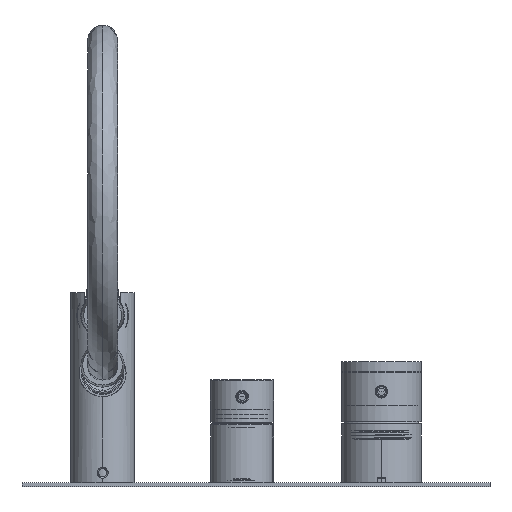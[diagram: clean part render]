
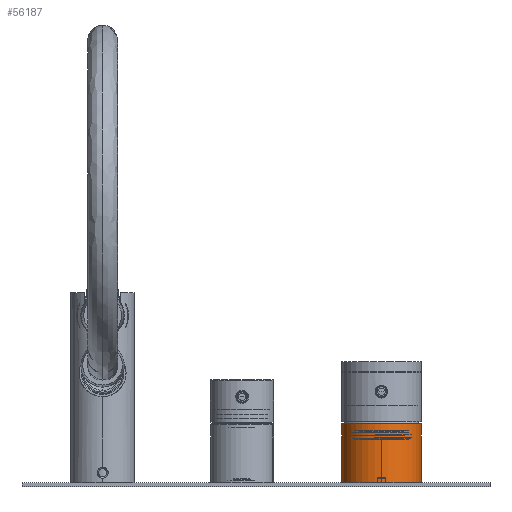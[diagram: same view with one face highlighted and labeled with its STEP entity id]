
A CAD part, top view. The second image highlights one B-rep face of the part: STEP entity #56187.
In plain terms, the highlighted cylindrical face has radius 20 mm (diameter 40 mm), a partial arc.
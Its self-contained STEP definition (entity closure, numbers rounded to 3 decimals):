
#52060=CARTESIAN_POINT('',(0.,13.9,0.));
#52061=DIRECTION('',(0.,1.,0.));
#52062=DIRECTION('',(-1.,0.,0.));
#52063=AXIS2_PLACEMENT_3D('',#52060,#52061,#52062);
#52065=DIRECTION('',(0.,1.,0.));
#52066=VECTOR('',#52065,31.6);
#52067=CARTESIAN_POINT('',(-20.,13.9,0.));
#52068=LINE('',#52067,#52066);
#52069=DIRECTION('',(0.,1.,0.));
#52070=VECTOR('',#52069,31.6);
#52071=CARTESIAN_POINT('',(20.,13.9,0.));
#52072=LINE('',#52071,#52070);
#52073=CARTESIAN_POINT('',(0.,45.5,0.));
#52074=DIRECTION('',(0.,-1.,0.));
#52075=DIRECTION('',(1.,0.,0.));
#52076=AXIS2_PLACEMENT_3D('',#52073,#52074,#52075);
#53010=CARTESIAN_POINT('',(20.,45.5,0.));
#53011=CARTESIAN_POINT('',(-20.,45.5,0.));
#53012=VERTEX_POINT('',#53010);
#53013=VERTEX_POINT('',#53011);
#53014=CARTESIAN_POINT('',(20.,13.9,0.));
#53015=CARTESIAN_POINT('',(-20.,13.9,0.));
#53016=VERTEX_POINT('',#53014);
#53017=VERTEX_POINT('',#53015);
#56175=CARTESIAN_POINT('',(0.,1.925,0.));
#56176=DIRECTION('',(0.,1.,0.));
#56177=DIRECTION('',(1.,0.,0.));
#56178=AXIS2_PLACEMENT_3D('',#56175,#56176,#56177);
#56179=CYLINDRICAL_SURFACE('',#56178,20.);
#56180=ORIENTED_EDGE('',*,*,#56151,.F.);
#56181=ORIENTED_EDGE('',*,*,#56170,.T.);
#56183=ORIENTED_EDGE('',*,*,#56182,.F.);
#56184=ORIENTED_EDGE('',*,*,#56166,.F.);
#56185=EDGE_LOOP('',(#56180,#56181,#56183,#56184));
#56186=FACE_OUTER_BOUND('',#56185,.F.);
#56187=ADVANCED_FACE('',(#56186),#56179,.T.);
#52064=CIRCLE('',#52063,20.);
#52077=CIRCLE('',#52076,20.);
#56151=EDGE_CURVE('',#53017,#53016,#52064,.T.);
#56166=EDGE_CURVE('',#53016,#53012,#52072,.T.);
#56170=EDGE_CURVE('',#53017,#53013,#52068,.T.);
#56182=EDGE_CURVE('',#53012,#53013,#52077,.T.);
